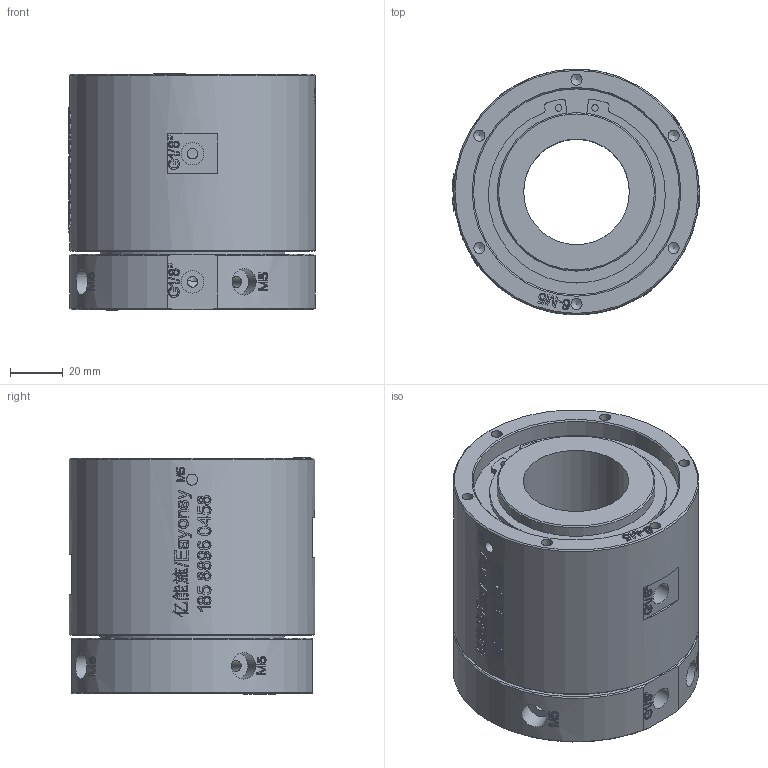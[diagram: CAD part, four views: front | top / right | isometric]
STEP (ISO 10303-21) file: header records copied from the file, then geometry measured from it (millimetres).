
FILE_DESCRIPTION(/* description */ (''),/* implementation_level */ '2;1');
FILE_NAME(/* name */ 'YQ0201-D40-3D模型.stp',/* time_stamp */ '2025-08-04T18:07:11+08:00',/* author */ (''),/* organization */ (''),/* preprocessor_version */ 'ST-DEVELOPER v16.7',/* originating_system */ 'SIEMENS PLM Software NX 12.0',/* authorisation */ '');
FILE_SCHEMA (('AUTOMOTIVE_DESIGN { 1 0 10303 214 3 1 1 1 }'));
Products named in the file (1): AdmiA0707E3Egpa7
Bounding box: 93.62 x 93 x 89.4 mm (x, y, z)
Volume: 465632.9 mm3; surface area: 64839.8 mm2
Topology: 1 solids, 1 shells, 1562 faces, 4301 edges, 2869 vertices
Faces by surface type: extrusion 871, plane 524, cylinder 75, bspline 73, cone 19
Full cylindrical faces by diameter (mm): 2.5 x2, 4 x6, 4.1 x2, 4.2 x14, 6.8 x4, 8.5 x4, 10 x4, 40 x1, 57 x1, 60 x1, 70 x1, 78 x1, 85 x1, 93 x1
Entity records: 61724 total; most frequent: CARTESIAN_POINT 28774, ORIENTED_EDGE 8410, EDGE_CURVE 4205, B_SPLINE_CURVE_WITH_KNOTS 4182, DIRECTION 3329, VERTEX_POINT 2844, EDGE_LOOP 1761, ADVANCED_FACE 1562
